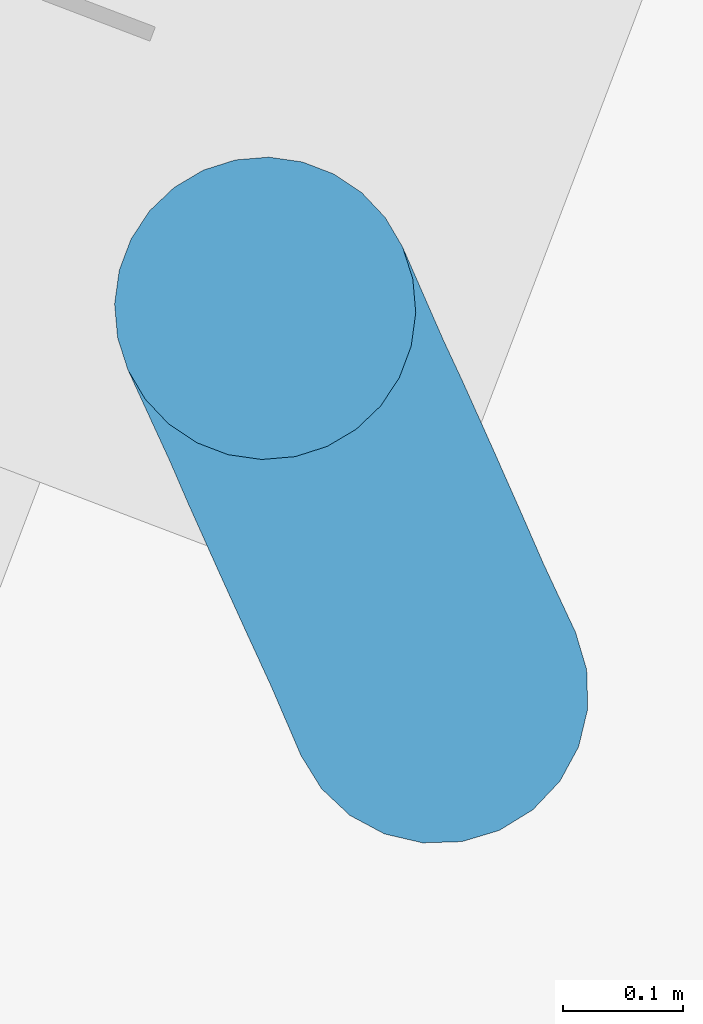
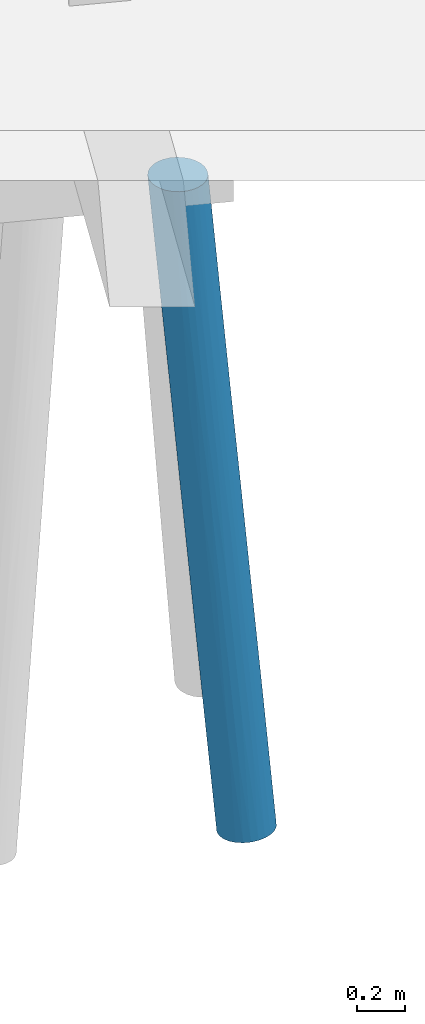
# One storey, part 20 of 46: 1 pile.
"""IFC2X3 building model written with IfcOpenShell, lengths in millimetres."""

from ifc_helpers import new_model, entity, si_unit, converted_unit, derived_unit, direction, frame, origin, place, context, subcontext, project, spatial, faceted_brep, source, transform, mapped, material, type_object, type_shapes, element, save


model = new_model("IFC2X3")

# Units and contexts
model_context = context("Model", 3, precision=0.01, world=origin(), true_north=direction((6.123233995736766e-17, 1.0)))
body_context = subcontext(model_context, "Body", "Model", "MODEL_VIEW")
ifc_project = project(units=[si_unit("LENGTHUNIT", "METRE", prefix="MILLI"), converted_unit("PLANEANGLEUNIT", "DEGREE", entity("IfcPlaneAngleMeasure", 0.017453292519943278), si_unit("PLANEANGLEUNIT", "RADIAN"), dimensions=[0, 0, 0, 0, 0, 0, 0]), si_unit("AREAUNIT", "SQUARE_METRE"), derived_unit("THERMALTRANSMITTANCEUNIT", [(si_unit("MASSUNIT", "GRAM", prefix="KILO"), 1), (si_unit("THERMODYNAMICTEMPERATUREUNIT", "KELVIN"), -1), (si_unit("TIMEUNIT", "SECOND"), -3)])], contexts=[model_context])

# Site, building, storey
site_placement = place(None, frame((-72937.88054949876, 11621.45624098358, 0.0), z_axis=(0.0, 0.0, 1.0), x_axis=(0.9346418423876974, -0.35559053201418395, 0.0)))
site = spatial("IfcSite", under=ifc_project, at=site_placement, Name="Default", CompositionType="ELEMENT")
building_placement = place(site_placement, origin())
building = spatial("IfcBuilding", under=site, at=building_placement, CompositionType="ELEMENT")
storey_placement = place(building_placement, origin())
storey = spatial("IfcBuildingStorey", under=building, at=storey_placement, Name="00 begane grond", CompositionType="ELEMENT", Elevation=0.0)

# Pile
ifc_material = material(Name="beton_gewapend_prefab-element_c45/55")
type_product = type_object("IfcTypeProduct", Name="Type 01", material=ifc_material)
shared_shape = source(origin(), body_context, "Body", "Brep", [
    faceted_brep([(-21.492869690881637, -34.07967924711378, -2142.478153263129), (41.770052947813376, 0.0, -1615.9926657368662), (50.02983679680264, -41.219149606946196, -1478.3429510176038), (-120.39371842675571, -27.815116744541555, -840.0), (-209.76851175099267, 0.0, -1615.9934634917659), (-196.5141812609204, -41.35907440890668, -1560.4595682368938), (-88.87736384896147, -91.39060439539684, -2432.143714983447), (-29.01608810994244, -89.9027707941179, -1907.5825387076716), (-105.46135978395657, -105.60554685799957, -2414.744852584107), (115.53639022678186, -54.235467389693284, -840.0), (100.55257203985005, -77.93622523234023, -840.0), (44.04069234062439, -66.4881713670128, -1422.150587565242), (-241.29781855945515, -62.499999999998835, -4011.9545633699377), (-228.8866429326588, -32.35238063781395, -4013.333582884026), (-181.63351961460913, -47.83542906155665, -3540.4622999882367), (127.99146025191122, 0.0, -840.0), (124.838162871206, -27.815116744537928, -840.0), (56.79144948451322, -112.62110848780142, -840.0), (-1.0422673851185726, -115.29700921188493, -1306.634534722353), (80.6380595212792, -97.7289353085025, -840.0), (-148.00042706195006, -121.55050259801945, -1927.9224619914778), (-119.59016639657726, -124.7753227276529, -1868.475336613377), (-82.66188090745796, -124.23733970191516, -1479.1096584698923), (2.222222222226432, -125.0, -840.0), (-25.764066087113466, -121.86598902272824, -840.0), (35.238837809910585, -88.30507823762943, -1343.9943162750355), (-38.428481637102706, -123.46402257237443, -1382.7576650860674), (30.208510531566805, -121.86598902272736, -840.0), (-105.46067851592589, -124.17311504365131, -1939.1271630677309), (-121.64165871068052, -118.88184081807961, -2304.5646505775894), (-59.29822656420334, -117.91120533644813, -1769.4495348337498), (-224.65342205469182, 0.0, -4013.803940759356), (-181.5427184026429, 0.0, -3625.8076078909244), (-187.86059930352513, -76.09517863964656, -3448.7603995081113), (-111.16783038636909, -79.40373738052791, -2734.720867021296), (-186.42266103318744, -99.1691675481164, -3226.87509877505), (-381.04339378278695, -120.74072828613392, -3996.4272772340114), (-348.8888888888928, -125.0, -4000.0), (-294.25946310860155, -123.9306076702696, -3360.589550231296), (-119.53291308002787, -47.835429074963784, -2981.55684112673), (-105.13946974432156, -22.11026756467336, -2920.330251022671), (-71.50265177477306, -37.61355729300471, -2582.985799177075), (-160.26870491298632, -23.53094104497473, -3414.1045295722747), (-286.7711554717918, -108.25317547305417, -4006.901970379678), (-238.88036705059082, -115.48494156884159, -3443.09153660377), (-261.04114782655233, -88.38834764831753, -4009.7608601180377), (-316.7343839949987, -120.74072828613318, -4003.5727227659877), (-84.00174733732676, -60.02171841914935, -2608.908596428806), (-61.65923548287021, -74.64816535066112, -2322.8523974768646), (-173.2739820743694, -115.31995815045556, -2856.223431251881), (-151.97718420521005, -123.99260475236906, -2371.2114813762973), (-123.54701580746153, 0.0, -840.0), (-250.82857575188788, -22.617884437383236, -2004.2180489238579), (-295.9900076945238, 0.0, -2391.986926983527), (-52.347005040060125, -112.6211084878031, -840.0), (-76.19361507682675, -97.72893530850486, -840.0), (-107.44397040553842, -105.89787173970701, -1225.6035634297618), (-281.4812245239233, -123.93060767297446, -3541.076638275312), (-109.06614769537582, -117.5733672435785, -1457.2474766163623), (-111.0919457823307, -54.235467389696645, -840.0), (-15.85514051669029, -105.72630914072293, -1606.5585830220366), (-146.68659472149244, -88.47759853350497, -1380.5978408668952), (-158.7756678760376, -105.96661342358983, -1688.5825591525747), (-348.5966640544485, -22.310072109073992, -2883.621631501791), (-384.5571817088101, 0.0, -3189.0914931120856), (-404.9818286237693, -23.95962394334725, -3393.9013620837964), (-416.2874807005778, -47.83542904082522, -3560.826702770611), (-468.89113484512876, -32.35238063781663, -3986.6664171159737), (-456.47995921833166, -62.500000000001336, -3988.0454366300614), (-337.6622645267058, -115.48494156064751, -3465.7921474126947), (-411.00662230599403, -108.25317547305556, -3993.0980296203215), (-255.6918544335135, -84.13968982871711, -2324.129304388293), (-241.96823570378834, -100.09571921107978, -2359.7174741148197), (-204.57839676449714, -89.69967503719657, -1912.8684599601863), (-96.10812759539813, -77.93622523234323, -840.0), (-436.73662995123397, -88.38834764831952, -3990.239139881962), (-377.92930595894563, -99.16916753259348, -3572.292603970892), (-206.96183482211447, -60.377923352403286, -1731.5361763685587), (-358.429549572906, -47.83542903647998, -3040.1053226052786), (-296.17437932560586, -43.53585544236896, -2464.518236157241), (-379.61635653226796, -76.09517861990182, -3378.5322028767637), (-430.0136077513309, 0.0, -3598.199327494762), (-306.35511538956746, -77.61365432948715, -2729.9013330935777), (-213.4617402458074, -118.14633713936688, -2411.4959163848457), (-159.2186646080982, -65.41382269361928, -1328.4086999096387), (-67.97340634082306, -109.92592992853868, -2010.6352011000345), (-179.43548008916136, -124.76102802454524, -2404.9604566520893), (-13.219750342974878, -66.34050229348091, -1938.3332116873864), (-236.17409644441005, -124.51562049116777, -2886.015168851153), (-268.30597333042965, -110.23172722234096, -2741.026078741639), (-270.10864031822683, -119.49229851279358, -2958.6820679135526), (-320.7170568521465, -99.16916752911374, -3057.382361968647), (-473.12435572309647, 0.0, -3986.1960592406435), (-138.91569201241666, -99.37675608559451, -2796.855638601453), (-220.46267944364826, -123.93060767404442, -2991.9097324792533), (-44.45135435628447, 0.0, -2391.9853314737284), (-247.15908292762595, -66.69543969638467, -2127.0964328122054), (-134.55238820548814, 0.0, -3202.894636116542), (-89.50217198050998, 0.0, -2797.4426900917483), (-303.09738986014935, -21.900839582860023, -2473.4623287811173), (-340.273594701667, 0.0, -2790.539210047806), (-246.59414544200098, -45.75852255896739, -2025.9931784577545), (124.83816287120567, 27.815116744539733, -840.0), (115.53639022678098, 54.23546738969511, -840.0), (100.55257203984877, 77.93622523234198, -840.0), (80.63805952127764, 97.72893530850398, -840.0), (56.7914494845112, 112.62110848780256, -840.0), (30.20851053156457, 121.86598902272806, -840.0), (2.222222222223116, 125.0, -840.0), (-25.764066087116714, 121.86598902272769, -840.0), (-52.3470050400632, 112.62110848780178, -840.0), (-76.19361507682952, 97.72893530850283, -840.0), (-96.1081275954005, 77.93622523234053, -840.0), (-111.09194578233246, 54.23546738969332, -840.0), (-120.39371842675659, 27.815116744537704, -840.0), (-213.46174017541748, 118.14633716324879, -2411.4959163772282), (-268.3059732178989, 110.23172722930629, -2741.0260778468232), (-241.96823566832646, 100.09571920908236, -2359.717473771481), (-187.14229973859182, 67.59575846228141, -1592.137482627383), (-196.5141812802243, 41.359074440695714, -1560.4595685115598), (-82.66188086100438, 124.23733970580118, -1479.1096583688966), (-29.016087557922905, 89.90277069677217, -1907.5825346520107), (35.23883807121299, 88.30507821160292, -1343.9943141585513), (-13.219750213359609, 66.3405022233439, -1938.3332109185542), (-109.06614766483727, 117.57336725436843, -1457.2474766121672), (-381.04339378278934, 120.74072828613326, -3996.4272772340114), (-337.6622645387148, 115.48494156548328, -3465.7921476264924), (-294.2594631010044, 123.93060767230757, -3360.5895503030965), (-377.9293059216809, 99.16916753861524, -3572.292603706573), (-379.61635651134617, 76.09517863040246, -3378.53220276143), (-320.717056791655, 99.16916754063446, -3057.382361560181), (-286.77115547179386, 108.25317547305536, -4006.901970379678), (-238.88036707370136, 115.48494156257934, -3443.0915369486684), (-186.42266103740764, 99.16916753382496, -3226.875098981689), (-241.29781855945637, 62.50000000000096, -4011.9545633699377), (-181.63351956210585, 47.835429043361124, -3540.4622995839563), (-228.88664293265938, 32.352380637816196, -4013.333582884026), (-107.44397039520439, 105.89787175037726, -1225.6035634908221), (-38.428481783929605, 123.46402262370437, -1382.7576634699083), (-468.89113484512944, 32.35238063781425, -3986.6664171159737), (-173.2739821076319, 115.31995832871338, -2856.223427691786), (-138.91569233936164, 99.37675620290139, -2796.855640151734), (-160.26870486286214, 23.530941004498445, -3414.104529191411), (-261.041147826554, 88.38834764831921, -4009.7608601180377), (-187.86059935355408, 76.09517862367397, -3448.760400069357), (-306.35511542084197, 77.61365434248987, -2729.9013334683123), (-348.8888888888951, 125.0, -4000.0), (-456.47995921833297, 62.49999999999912, -3988.0454366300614), (-416.2874806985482, 47.83542904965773, -3560.826702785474), (-411.0066223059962, 108.25317547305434, -3993.0980296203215), (-436.7366299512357, 88.38834764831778, -3990.239139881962), (-84.00174724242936, 60.02171839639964, -2608.9085956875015), (-21.492869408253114, 34.07967918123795, -2142.4781508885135), (-71.50265159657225, 37.613557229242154, -2582.9857977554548), (-220.46267940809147, 123.93060767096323, -2991.909732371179), (-281.48122449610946, 123.9306076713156, -3541.07663813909), (-148.0004270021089, 121.5505026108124, -1927.922461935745), (-158.7756678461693, 105.9666134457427, -1688.5825592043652), (-15.85514048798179, 105.72630911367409, -1606.5585831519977), (-59.298225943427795, 117.91120535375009, -1769.449528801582), (-1.0422669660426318, 115.29700910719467, -1306.634533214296), (-270.1086403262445, 119.49229851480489, -2958.682068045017), (50.02983688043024, 41.21914955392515, -1478.342950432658), (-146.6865947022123, 88.47759855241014, -1380.5978408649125), (-358.42954957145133, 47.83542905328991, -3040.1053226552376), (-348.59666404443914, 22.310072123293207, -2883.6216314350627), (-296.1743793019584, 43.535855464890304, -2464.5182360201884), (57.21126448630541, 65.80573689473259, -1307.4694469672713), (-121.64165783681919, 118.88184074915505, -2304.564644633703), (-67.97340649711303, 109.92593000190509, -2010.6352012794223), (-105.13946990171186, 22.110267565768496, -2920.330252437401), (-179.4354799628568, 124.7610280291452, -2404.960456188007), (-316.73438399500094, 120.7407282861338, -4003.5727227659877), (-119.53291301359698, 47.8354290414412, -2981.5568406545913), (-250.82857577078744, 22.617884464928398, -2004.2180491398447), (-404.98182862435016, 23.959623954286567, -3393.9013621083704), (-61.65923550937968, 74.64816548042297, -2322.852396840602), (-243.17628094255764, 45.971171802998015, -1995.991919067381), (-105.46135971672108, 105.60554680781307, -2414.7448526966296), (-111.16783063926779, 79.40373735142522, -2734.7208695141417), (-119.59016630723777, 124.7753227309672, -1868.4753363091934), (-236.17409637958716, 124.515620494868, -2886.0151686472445), (-204.5783966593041, 89.69967507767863, -1912.8684593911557), (-247.1590829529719, 66.69543974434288, -2127.0964333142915), (-88.87736442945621, 91.39060438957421, -2432.1437202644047), (-255.69185439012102, 84.13968979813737, -2324.1293037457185), (-168.1781585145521, 123.85607816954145, -2526.387901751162), (-105.46067843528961, 124.17311503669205, -1939.1271628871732), (-303.0973898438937, 21.90083960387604, -2473.4623286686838)], [[[0, 1, 2]], [[3, 4, 5]], [[6, 7, 8]], [[9, 10, 11]], [[12, 13, 14]], [[1, 15, 16]], [[17, 18, 19]], [[20, 21, 22]], [[22, 23, 24]], [[10, 19, 25]], [[26, 18, 27]], [[23, 22, 26]], [[28, 29, 30]], [[13, 31, 32]], [[33, 34, 35]], [[36, 37, 38]], [[39, 40, 41]], [[14, 42, 39]], [[43, 35, 44]], [[33, 35, 45]], [[43, 44, 46]], [[47, 48, 34]], [[49, 29, 50]], [[3, 51, 4]], [[30, 26, 28]], [[52, 4, 53]], [[54, 55, 56]], [[57, 38, 37]], [[58, 24, 54]], [[57, 37, 46]], [[3, 5, 59]], [[2, 16, 9]], [[4, 52, 5]], [[25, 60, 7]], [[45, 35, 43]], [[61, 62, 56]], [[63, 64, 65]], [[66, 67, 68]], [[69, 36, 38]], [[36, 69, 70]], [[71, 72, 73]], [[61, 55, 74]], [[75, 70, 76]], [[61, 77, 73]], [[63, 78, 79]], [[75, 76, 80]], [[64, 81, 65]], [[78, 80, 82]], [[75, 80, 68]], [[72, 83, 62]], [[5, 84, 59]], [[29, 8, 85]], [[11, 10, 25]], [[28, 21, 86]], [[45, 12, 33]], [[49, 44, 35]], [[58, 54, 56]], [[22, 58, 20]], [[0, 2, 87]], [[1, 16, 2]], [[88, 86, 83]], [[39, 42, 40]], [[89, 69, 90]], [[74, 59, 84]], [[62, 73, 72]], [[82, 80, 91]], [[66, 80, 78]], [[14, 33, 12]], [[67, 81, 92]], [[34, 33, 39]], [[39, 41, 47]], [[34, 6, 93]], [[35, 93, 49]], [[57, 44, 94]], [[90, 69, 38]], [[76, 69, 91]], [[34, 39, 47]], [[1, 0, 95]], [[72, 82, 91]], [[82, 96, 79]], [[72, 91, 89]], [[62, 61, 73]], [[32, 42, 13]], [[33, 14, 39]], [[44, 57, 46]], [[38, 57, 94]], [[42, 32, 97]], [[42, 97, 40]], [[13, 42, 14]], [[40, 97, 98, 95]], [[41, 95, 0]], [[61, 56, 55]], [[58, 56, 62]], [[20, 62, 83]], [[24, 58, 22]], [[62, 20, 58]], [[20, 83, 86]], [[83, 90, 88]], [[28, 50, 29]], [[90, 38, 88]], [[89, 90, 83]], [[95, 41, 40]], [[47, 0, 87]], [[0, 47, 41]], [[48, 47, 87]], [[7, 48, 87]], [[6, 34, 48]], [[87, 2, 11]], [[7, 60, 85]], [[60, 25, 19]], [[11, 7, 87]], [[7, 6, 48]], [[93, 6, 8]], [[93, 8, 49]], [[34, 93, 35]], [[29, 49, 8]], [[94, 44, 49]], [[30, 85, 60]], [[28, 86, 50]], [[18, 30, 60]], [[18, 26, 30]], [[23, 26, 27]], [[21, 26, 22]], [[19, 18, 60]], [[18, 17, 27]], [[77, 61, 84]], [[71, 96, 82]], [[72, 89, 83]], [[69, 89, 91]], [[38, 94, 88]], [[50, 88, 94]], [[80, 66, 68]], [[65, 67, 66]], [[78, 63, 65]], [[67, 65, 81]], [[78, 65, 66]], [[78, 82, 79]], [[99, 100, 63]], [[79, 101, 52]], [[99, 63, 79]], [[69, 76, 70]], [[80, 76, 91]], [[96, 71, 73]], [[82, 72, 71]], [[29, 85, 30]], [[7, 85, 8]], [[99, 52, 53]], [[101, 79, 96]], [[77, 84, 5]], [[74, 84, 61]], [[86, 21, 20]], [[26, 21, 28]], [[9, 11, 2]], [[7, 11, 25]], [[88, 50, 86]], [[49, 50, 94]], [[52, 99, 79]], [[100, 64, 63]], [[100, 99, 53]], [[77, 101, 96]], [[5, 52, 101]], [[101, 77, 5]], [[73, 77, 96]], [[24, 23, 27, 17, 19, 10, 9, 16, 15, 102, 103, 104, 105, 106, 107, 108, 109, 110, 111, 112, 113, 114, 51, 3, 59, 74, 55, 54]], [[51, 114, 4]], [[115, 116, 117]], [[118, 113, 112]], [[119, 114, 113]], [[120, 109, 108]], [[121, 122, 123]], [[120, 124, 109]], [[125, 126, 127]], [[128, 129, 130]], [[131, 132, 133]], [[134, 135, 136]], [[137, 111, 110]], [[138, 108, 107]], [[139, 92, 81]], [[140, 141, 133]], [[142, 97, 32]], [[143, 133, 144]], [[130, 129, 145]], [[146, 125, 127]], [[147, 139, 148]], [[149, 150, 128]], [[151, 152, 153]], [[154, 155, 127]], [[124, 156, 157]], [[158, 159, 160]], [[4, 114, 119]], [[160, 107, 106]], [[161, 127, 126]], [[103, 102, 162]], [[158, 160, 105]], [[111, 137, 163]], [[164, 165, 166]], [[105, 104, 122]], [[102, 15, 1]], [[167, 103, 162]], [[167, 123, 122]], [[168, 159, 169]], [[170, 97, 142]], [[115, 156, 171]], [[155, 172, 146]], [[163, 118, 112]], [[169, 159, 158]], [[111, 163, 112]], [[143, 131, 133]], [[130, 145, 117]], [[134, 143, 144]], [[123, 162, 152]], [[129, 150, 147]], [[173, 151, 153]], [[119, 174, 4]], [[148, 175, 164]], [[121, 123, 176]], [[166, 174, 177]], [[140, 168, 178]], [[131, 172, 132]], [[144, 179, 173]], [[171, 156, 180]], [[124, 157, 137]], [[102, 1, 162]], [[152, 1, 95]], [[125, 149, 126]], [[136, 32, 31]], [[115, 181, 161]], [[182, 157, 117]], [[118, 183, 177]], [[148, 129, 147]], [[164, 166, 145]], [[155, 132, 172]], [[164, 175, 165]], [[141, 140, 178]], [[179, 144, 133]], [[135, 144, 173]], [[178, 184, 141]], [[151, 176, 123]], [[128, 126, 149]], [[161, 116, 115]], [[1, 152, 162]], [[95, 170, 153]], [[164, 145, 129]], [[163, 157, 182]], [[185, 183, 182]], [[115, 117, 157]], [[144, 135, 134]], [[142, 136, 135]], [[127, 155, 146]], [[132, 155, 154]], [[173, 170, 142]], [[136, 142, 32]], [[173, 142, 135]], [[153, 170, 173]], [[170, 95, 98, 97]], [[110, 109, 124]], [[163, 137, 157]], [[124, 137, 110]], [[156, 124, 120]], [[180, 156, 120]], [[157, 156, 115]], [[186, 187, 168]], [[161, 181, 127]], [[116, 126, 130]], [[181, 115, 171]], [[173, 179, 151]], [[95, 153, 152]], [[176, 151, 179]], [[152, 151, 123]], [[179, 184, 176]], [[178, 169, 121]], [[121, 176, 184]], [[158, 105, 122]], [[103, 167, 104]], [[158, 122, 121]], [[141, 179, 133]], [[121, 184, 178]], [[179, 141, 184]], [[140, 133, 132]], [[132, 154, 140]], [[181, 186, 154]], [[186, 140, 154]], [[168, 187, 159]], [[138, 159, 187]], [[107, 160, 138]], [[180, 138, 187]], [[108, 138, 120]], [[138, 160, 159]], [[105, 160, 106]], [[185, 182, 117]], [[118, 182, 183]], [[126, 116, 161]], [[117, 116, 130]], [[186, 181, 171]], [[154, 127, 181]], [[81, 175, 139]], [[129, 148, 164]], [[175, 81, 64]], [[175, 64, 165]], [[139, 175, 148]], [[165, 64, 100]], [[166, 183, 145]], [[165, 188, 166]], [[174, 53, 4]], [[129, 128, 150]], [[126, 128, 130]], [[117, 145, 185]], [[183, 185, 145]], [[121, 169, 158]], [[168, 169, 178]], [[177, 174, 119]], [[188, 174, 166]], [[113, 118, 119]], [[182, 118, 163]], [[138, 180, 120]], [[171, 180, 187]], [[123, 167, 162]], [[104, 167, 122]], [[187, 186, 171]], [[140, 186, 168]], [[100, 188, 165]], [[188, 100, 53]], [[174, 188, 53]], [[118, 177, 119]], [[166, 177, 183]], [[146, 172, 131, 143, 134, 136, 31, 13, 12, 45, 43, 46, 37, 36, 70, 75, 68, 67, 92, 139, 147, 150, 149, 125]]]),
])
type_shapes(type_product, [shared_shape])
pile_placement = place(storey_placement, frame((62600.0, 21580.0, 0.0), z_axis=(0.0, 0.0, 1.0), x_axis=(-0.7071067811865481, 0.707106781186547, 0.0)))
element("IfcPile", 1, at=pile_placement, inside=storey, type_object=type_product, material=ifc_material, Name="17.21_Prefab funderingspaal rond", ObjectType="prefab paal rond", PredefinedType="NOTDEFINED", context=body_context, shape_type="MappedRepresentation", body=[
    mapped(shared_shape, transform((0.0, 0.0, 0.0), scale=1.0)),
])

save(model, "model.ifc")
